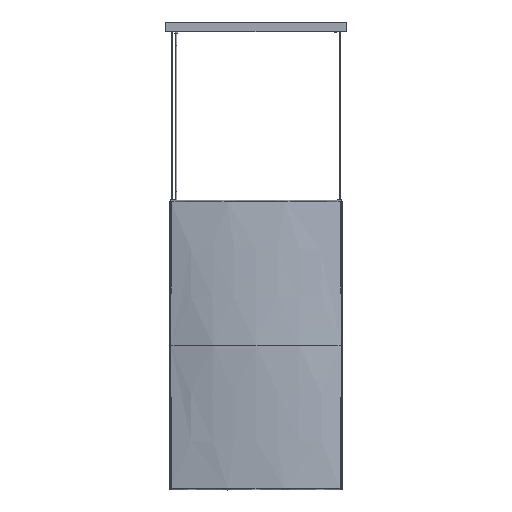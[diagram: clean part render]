
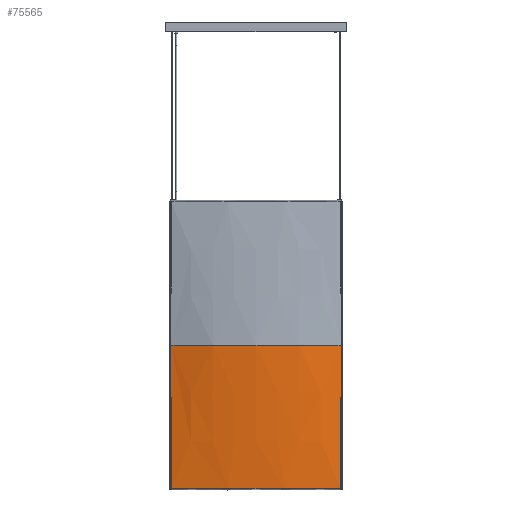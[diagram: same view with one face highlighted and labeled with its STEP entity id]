
A CAD part, top view. The second image highlights one B-rep face of the part: STEP entity #75565.
In plain terms, the highlighted free-form (B-spline) face has degree [3, 3] with [11, 4] control points.
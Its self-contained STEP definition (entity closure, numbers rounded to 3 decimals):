
#1804 = EDGE_CURVE ( 'NONE', #42299, #17827, #30250, .T. ) ;
#4324 = CARTESIAN_POINT ( 'NONE',  ( -356.75, -27.788, -600. ) ) ;
#5550 = CARTESIAN_POINT ( 'NONE',  ( 356.751, -27.789, -200. ) ) ;
#8012 = CARTESIAN_POINT ( 'NONE',  ( -180.587, 12.929, -200. ) ) ;
#9216 = CARTESIAN_POINT ( 'NONE',  ( 89.819, 7.461, -600. ) ) ;
#11665 = CARTESIAN_POINT ( 'NONE',  ( 356.751, -27.789, -400. ) ) ;
#11673 = CARTESIAN_POINT ( 'NONE',  ( 235.334, -6.546, -595.116 ) ) ;
#14075 = CARTESIAN_POINT ( 'NONE',  ( 293.736, -15.725, -595.066 ) ) ;
#17827 = VERTEX_POINT ( 'NONE', #98939 ) ;
#18711 = CARTESIAN_POINT ( 'NONE',  ( -352.602, -26.337, 0. ) ) ;
#24198 = CARTESIAN_POINT ( 'NONE',  ( 327.442, -21.679, -600. ) ) ;
#25260 = CARTESIAN_POINT ( 'NONE',  ( -352.602, -26.337, 0. ) ) ;
#25424 = CARTESIAN_POINT ( 'NONE',  ( -328.166, -17.718, 0. ) ) ;
#30250 = B_SPLINE_CURVE_WITH_KNOTS ( 'NONE', 3,
 ( #166293, #186183, #131472, #128979 ),
 .UNSPECIFIED., .F., .F.,
 ( 4, 4 ),
 ( 0., 0.595 ),
 .UNSPECIFIED. ) ;
#32191 = CIRCLE ( 'NONE', #203101, 1073.628 ) ;
#32770 = CARTESIAN_POINT ( 'NONE',  ( -206.065, -2.803, -595.136 ) ) ;
#42299 = VERTEX_POINT ( 'NONE', #78666 ) ;
#42871 = CARTESIAN_POINT ( 'NONE',  ( -327.924, -19.038, -200. ) ) ;
#44109 = CARTESIAN_POINT ( 'NONE',  ( -179.399, 0.545, -600. ) ) ;
#45047 = B_SPLINE_SURFACE_WITH_KNOTS ( 'NONE', 3, 3, ( 
 ( #142390, #83954, #161052, #4324 ),
 ( #25424, #42871, #117592, #98923 ),
 ( #64035, #102583, #121281, #174800 ),
 ( #80273, #8012, #178506, #44109 ),
 ( #156152, #159840, #141154, #235763 ),
 ( #120062, #195948, #65251, #217072 ),
 ( #118832, #46568, #213394, #9216 ),
 ( #122512, #198419, #232093, #233292 ),
 ( #103841, #61574, #157364, #85178 ),
 ( #236979, #194728, #62791, #24198 ),
 ( #176034, #5550, #11665, #86377 ) ),
 .UNSPECIFIED., .F., .F., .F.,
 ( 4, 1, 1, 1, 1, 1, 1, 1, 4 ),
 ( 4, 4 ),
 ( 0.498, 0.56, 0.622, 0.684, 0.747, 0.809, 0.871, 0.934, 0.996 ),
 ( 0., 1. ),
 .UNSPECIFIED. ) ;
#46568 = CARTESIAN_POINT ( 'NONE',  ( 90.551, 22.919, -200. ) ) ;
#51441 = EDGE_LOOP ( 'NONE', ( #170648, #97404, #206416, #83031 ) ) ;
#53913 = CARTESIAN_POINT ( 'NONE',  ( 59.097, 8.439, -595.198 ) ) ;
#56106 = CARTESIAN_POINT ( 'NONE',  ( -351.846, -26.768, -595.006 ) ) ;
#61574 = CARTESIAN_POINT ( 'NONE',  ( 269.601, -3.656, -200. ) ) ;
#62791 = CARTESIAN_POINT ( 'NONE',  ( 327.684, -20.359, -400. ) ) ;
#64035 = CARTESIAN_POINT ( 'NONE',  ( -270.146, 0., 0. ) ) ;
#65251 = CARTESIAN_POINT ( 'NONE',  ( 0.001, 18.013, -400. ) ) ;
#68915 = CARTESIAN_POINT ( 'NONE',  ( -118.011, 5.437, -595.181 ) ) ;
#69083 = CARTESIAN_POINT ( 'NONE',  ( -351.846, -26.768, -595.006 ) ) ;
#72590 = CARTESIAN_POINT ( 'NONE',  ( -279.142, -13.288, -595.079 ) ) ;
#73799 = CARTESIAN_POINT ( 'NONE',  ( -147.404, 3.188, -595.169 ) ) ;
#75565 = ADVANCED_FACE ( 'NONE', ( #139949 ), #45047, .T. ) ;
#78666 = CARTESIAN_POINT ( 'NONE',  ( 352.604, -26.337, 0. ) ) ;
#80273 = CARTESIAN_POINT ( 'NONE',  ( -181.18, 19.121, 0. ) ) ;
#83031 = ORIENTED_EDGE ( 'NONE', *, *, #105738, .T. ) ;
#83954 = CARTESIAN_POINT ( 'NONE',  ( -356.75, -27.788, -200. ) ) ;
#84035 = DIRECTION ( 'NONE',  ( 0., 0., 1. ) ) ;
#85178 = CARTESIAN_POINT ( 'NONE',  ( 268.509, -10.966, -600. ) ) ;
#86377 = CARTESIAN_POINT ( 'NONE',  ( 356.751, -27.789, -600. ) ) ;
#87154 = EDGE_CURVE ( 'NONE', #17827, #151681, #159956, .T. ) ;
#87622 = CARTESIAN_POINT ( 'NONE',  ( 147.402, 3.188, -595.169 ) ) ;
#90031 = CARTESIAN_POINT ( 'NONE',  ( 118.009, 5.437, -595.181 ) ) ;
#97404 = ORIENTED_EDGE ( 'NONE', *, *, #1804, .T. ) ;
#98923 = CARTESIAN_POINT ( 'NONE',  ( -327.44, -21.678, -600. ) ) ;
#98939 = CARTESIAN_POINT ( 'NONE',  ( 351.847, -26.768, -595.006 ) ) ;
#102583 = CARTESIAN_POINT ( 'NONE',  ( -269.6, -3.655, -200. ) ) ;
#103841 = CARTESIAN_POINT ( 'NONE',  ( 270.148, 0., 0. ) ) ;
#105738 = EDGE_CURVE ( 'NONE', #151681, #147907, #193944, .T. ) ;
#113345 = CARTESIAN_POINT ( 'NONE',  ( -352.106, -26.596, -396.67 ) ) ;
#116511 = EDGE_CURVE ( 'NONE', #42299, #147907, #32191, .T. ) ;
#117592 = CARTESIAN_POINT ( 'NONE',  ( -327.682, -20.358, -400. ) ) ;
#118832 = CARTESIAN_POINT ( 'NONE',  ( 90.917, 30.648, 0. ) ) ;
#120062 = CARTESIAN_POINT ( 'NONE',  ( 0.001, 34.5, 0. ) ) ;
#121281 = CARTESIAN_POINT ( 'NONE',  ( -269.054, -7.311, -400. ) ) ;
#122512 = CARTESIAN_POINT ( 'NONE',  ( 181.182, 19.121, 0. ) ) ;
#126160 = CARTESIAN_POINT ( 'NONE',  ( 351.847, -26.768, -595.006 ) ) ;
#128979 = CARTESIAN_POINT ( 'NONE',  ( 351.847, -26.768, -595.006 ) ) ;
#131472 = CARTESIAN_POINT ( 'NONE',  ( 352.108, -26.596, -396.67 ) ) ;
#139949 = FACE_OUTER_BOUND ( 'NONE', #51441, .T. ) ;
#141154 = CARTESIAN_POINT ( 'NONE',  ( -90.184, 15.19, -400. ) ) ;
#142390 = CARTESIAN_POINT ( 'NONE',  ( -356.75, -27.788, 0. ) ) ;
#147264 = CARTESIAN_POINT ( 'NONE',  ( -59.1, 8.439, -595.198 ) ) ;
#147907 = VERTEX_POINT ( 'NONE', #25260 ) ;
#148499 = CARTESIAN_POINT ( 'NONE',  ( -351.846, -26.768, -595.006 ) ) ;
#151681 = VERTEX_POINT ( 'NONE', #69083 ) ;
#156152 = CARTESIAN_POINT ( 'NONE',  ( -90.915, 30.649, 0. ) ) ;
#156236 = DIRECTION ( 'NONE',  ( -1., 0., 0. ) ) ;
#157364 = CARTESIAN_POINT ( 'NONE',  ( 269.055, -7.311, -400. ) ) ;
#159840 = CARTESIAN_POINT ( 'NONE',  ( -90.55, 22.919, -200. ) ) ;
#159956 = B_SPLINE_CURVE_WITH_KNOTS ( 'NONE', 3,
 ( #126160, #202056, #167156, #14075, #182153, #11673, #243100, #87622, #90031, #53913, #239440, #240643, #147264, #68915, #73799, #32770, #220743, #72590, #164705, #244308, #223203, #148499 ),
 .UNSPECIFIED., .F., .F.,
 ( 4, 2, 2, 2, 2, 2, 2, 2, 2, 2, 4 ),
 ( 0., 0.044, 0.089, 0.177, 0.266, 0.355, 0.444, 0.532, 0.621, 0.665, 0.71 ),
 .UNSPECIFIED. ) ;
#161052 = CARTESIAN_POINT ( 'NONE',  ( -356.75, -27.788, -400. ) ) ;
#164705 = CARTESIAN_POINT ( 'NONE',  ( -293.734, -15.725, -595.066 ) ) ;
#166293 = CARTESIAN_POINT ( 'NONE',  ( 352.604, -26.337, 0. ) ) ;
#167156 = CARTESIAN_POINT ( 'NONE',  ( 322.844, -20.968, -595.037 ) ) ;
#170648 = ORIENTED_EDGE ( 'NONE', *, *, #116511, .F. ) ;
#174800 = CARTESIAN_POINT ( 'NONE',  ( -268.507, -10.966, -600. ) ) ;
#176034 = CARTESIAN_POINT ( 'NONE',  ( 356.751, -27.789, 0. ) ) ;
#178506 = CARTESIAN_POINT ( 'NONE',  ( -179.993, 6.737, -400. ) ) ;
#182153 = CARTESIAN_POINT ( 'NONE',  ( 279.143, -13.289, -595.079 ) ) ;
#186183 = CARTESIAN_POINT ( 'NONE',  ( 352.362, -26.453, -198.335 ) ) ;
#192356 = CARTESIAN_POINT ( 'NONE',  ( 0., -1040.411, 0. ) ) ;
#193944 = B_SPLINE_CURVE_WITH_KNOTS ( 'NONE', 3,
 ( #56106, #113345, #241554, #18711 ),
 .UNSPECIFIED., .F., .F.,
 ( 4, 4 ),
 ( 0., 0.595 ),
 .UNSPECIFIED. ) ;
#194728 = CARTESIAN_POINT ( 'NONE',  ( 327.926, -19.039, -200. ) ) ;
#195948 = CARTESIAN_POINT ( 'NONE',  ( 0.001, 26.257, -200. ) ) ;
#198419 = CARTESIAN_POINT ( 'NONE',  ( 180.588, 12.929, -200. ) ) ;
#202056 = CARTESIAN_POINT ( 'NONE',  ( 337.363, -23.775, -595.022 ) ) ;
#203101 = AXIS2_PLACEMENT_3D ( 'NONE', #192356, #84035, #156236 ) ;
#206416 = ORIENTED_EDGE ( 'NONE', *, *, #87154, .T. ) ;
#213394 = CARTESIAN_POINT ( 'NONE',  ( 90.185, 15.19, -400. ) ) ;
#217072 = CARTESIAN_POINT ( 'NONE',  ( 0.001, 9.77, -600. ) ) ;
#220743 = CARTESIAN_POINT ( 'NONE',  ( -235.334, -6.546, -595.116 ) ) ;
#223203 = CARTESIAN_POINT ( 'NONE',  ( -337.361, -23.775, -595.022 ) ) ;
#232093 = CARTESIAN_POINT ( 'NONE',  ( 179.994, 6.737, -400. ) ) ;
#233292 = CARTESIAN_POINT ( 'NONE',  ( 179.401, 0.545, -600. ) ) ;
#235763 = CARTESIAN_POINT ( 'NONE',  ( -89.818, 7.461, -600. ) ) ;
#236979 = CARTESIAN_POINT ( 'NONE',  ( 328.168, -17.718, 0. ) ) ;
#239440 = CARTESIAN_POINT ( 'NONE',  ( 29.579, 9.194, -595.202 ) ) ;
#240643 = CARTESIAN_POINT ( 'NONE',  ( -29.582, 9.194, -595.202 ) ) ;
#241554 = CARTESIAN_POINT ( 'NONE',  ( -352.36, -26.453, -198.335 ) ) ;
#243100 = CARTESIAN_POINT ( 'NONE',  ( 206.065, -2.803, -595.136 ) ) ;
#244308 = CARTESIAN_POINT ( 'NONE',  ( -322.842, -20.968, -595.037 ) ) ;
